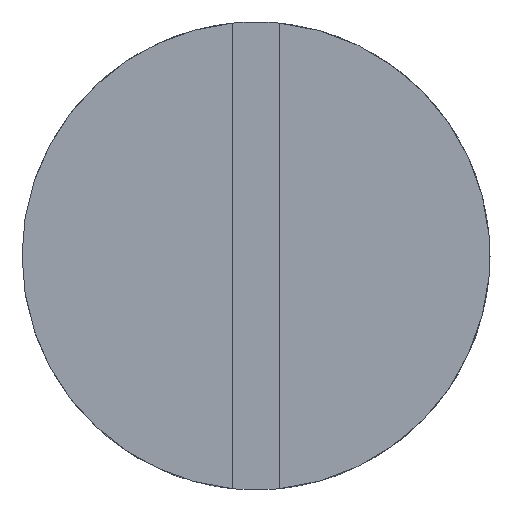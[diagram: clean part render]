
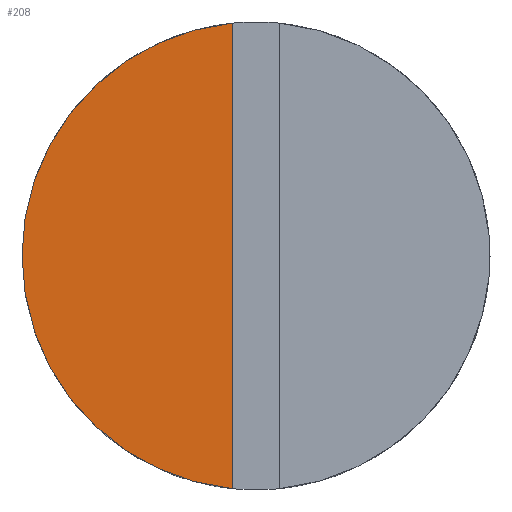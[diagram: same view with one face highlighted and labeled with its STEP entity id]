
A CAD part, top view. The second image highlights one B-rep face of the part: STEP entity #208.
In plain terms, the highlighted planar face has unit normal (0, 0, 1).
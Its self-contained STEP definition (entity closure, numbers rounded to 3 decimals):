
#24=PLANE('',#255);
#39=FACE_OUTER_BOUND('',#54,.T.);
#54=EDGE_LOOP('',(#188,#189,#190));
#65=LINE('',#368,#78);
#78=VECTOR('',#302,10.);
#92=CIRCLE('',#249,5.);
#94=CIRCLE('',#251,5.);
#109=VERTEX_POINT('',#365);
#110=VERTEX_POINT('',#367);
#111=VERTEX_POINT('',#372);
#132=EDGE_CURVE('',#110,#109,#65,.T.);
#135=EDGE_CURVE('',#111,#110,#92,.T.);
#138=EDGE_CURVE('',#109,#111,#94,.T.);
#188=ORIENTED_EDGE('',*,*,#132,.T.);
#189=ORIENTED_EDGE('',*,*,#138,.T.);
#190=ORIENTED_EDGE('',*,*,#135,.T.);
#208=ADVANCED_FACE('',(#39),#24,.T.);
#249=AXIS2_PLACEMENT_3D('',#373,#308,#309);
#251=AXIS2_PLACEMENT_3D('',#377,#313,#314);
#255=AXIS2_PLACEMENT_3D('',#382,#321,#322);
#302=DIRECTION('',(0.,1.,0.));
#308=DIRECTION('center_axis',(0.,0.,1.));
#309=DIRECTION('ref_axis',(1.,0.,0.));
#313=DIRECTION('center_axis',(0.,0.,1.));
#314=DIRECTION('ref_axis',(1.,0.,0.));
#321=DIRECTION('center_axis',(0.,0.,1.));
#322=DIRECTION('ref_axis',(1.,0.,0.));
#365=CARTESIAN_POINT('',(-0.5,4.975,1.5));
#367=CARTESIAN_POINT('',(-0.5,-4.975,1.5));
#368=CARTESIAN_POINT('',(-0.5,-3.,1.5));
#372=CARTESIAN_POINT('',(-5.,0.,1.5));
#373=CARTESIAN_POINT('Origin',(0.,0.,1.5));
#377=CARTESIAN_POINT('Origin',(0.,0.,1.5));
#382=CARTESIAN_POINT('Origin',(0.,0.,1.5));
